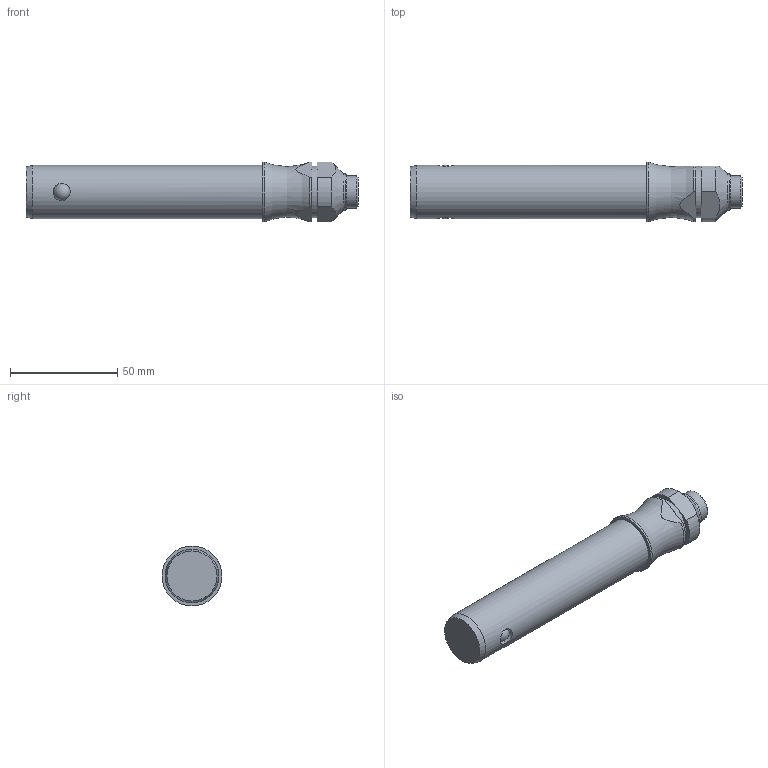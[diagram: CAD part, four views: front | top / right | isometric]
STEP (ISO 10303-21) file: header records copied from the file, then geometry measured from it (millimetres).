
FILE_DESCRIPTION( ( 'STEP AP203' ), '1' );
FILE_NAME( 'C:/Temp/Ganter_Step_05_03_2020/data/3_1/gn113_3/Stainless Steel-Ball lock pin GN 113.3-25-90 (activated).stp', '2020-03-12T08:19:11', ( 'License CC BY-ND 4.0' ), ( 'CADENAS' ), ' ', 'PARTsolutions', ' ' );
FILE_SCHEMA( ( 'CONFIG_CONTROL_DESIGN' ) );
Length unit declared in the file: millimetre
Products named in the file (1): _Stainless Steel-Ball lock pin GN 113.3-25-90 (activated)
Bounding box: 155.05 x 28 x 28 mm (x, y, z)
Volume: 73843.5 mm3; surface area: 13422.6 mm2
Topology: 1 solids, 1 shells, 31 faces, 74 edges, 46 vertices
Faces by surface type: cylinder 13, plane 11, cone 4, sphere 2, torus 1
Full cylindrical faces by diameter (mm): 8 x2, 15 x1, 17 x1, 24 x1, 25 x1, 28 x1
Entity records: 1046 total; most frequent: CARTESIAN_POINT 382, DIRECTION 134, ORIENTED_EDGE 104, AXIS2_PLACEMENT_3D 58, EDGE_CURVE 52, EDGE_LOOP 48, VERTEX_POINT 40, FACE_OUTER_BOUND 39
